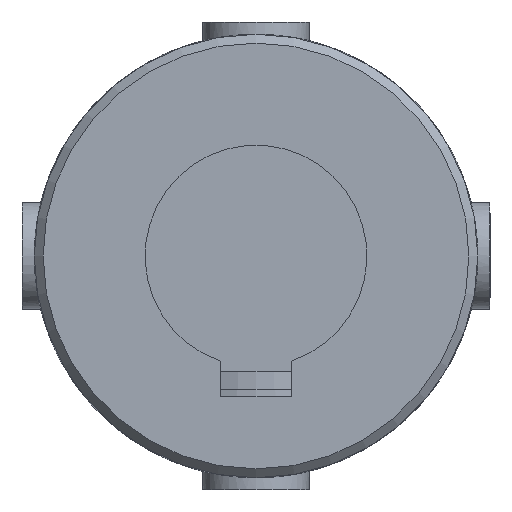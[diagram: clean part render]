
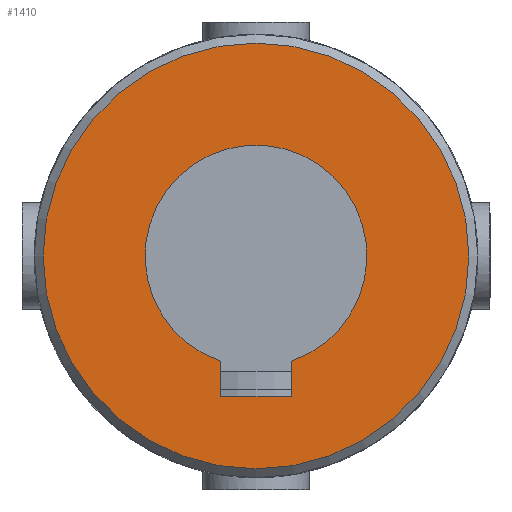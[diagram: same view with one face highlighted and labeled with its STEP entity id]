
A CAD part, front view. The second image highlights one B-rep face of the part: STEP entity #1410.
In plain terms, the highlighted planar face has unit normal (0, -1, 0).
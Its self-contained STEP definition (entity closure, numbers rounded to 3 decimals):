
#179=LINE('',#2753,#236);
#183=LINE('',#2780,#240);
#185=LINE('',#2788,#242);
#236=VECTOR('',#1827,3.957);
#240=VECTOR('',#1839,8.);
#242=VECTOR('',#1843,3.957);
#288=PLANE('',#1549);
#327=FACE_BOUND('',#509,.T.);
#395=FACE_OUTER_BOUND('',#508,.T.);
#508=EDGE_LOOP('',(#1232));
#509=EDGE_LOOP('',(#1233,#1234,#1235,#1236));
#572=CIRCLE('',#1536,12.5);
#578=CIRCLE('',#1547,24.);
#687=VERTEX_POINT('',#2750);
#688=VERTEX_POINT('',#2752);
#691=VERTEX_POINT('',#2762);
#693=VERTEX_POINT('',#2778);
#702=VERTEX_POINT('',#2865);
#863=EDGE_CURVE('',#688,#687,#179,.T.);
#867=EDGE_CURVE('',#691,#688,#572,.T.);
#871=EDGE_CURVE('',#687,#693,#183,.T.);
#874=EDGE_CURVE('',#693,#691,#185,.T.);
#884=EDGE_CURVE('',#702,#702,#578,.T.);
#1232=ORIENTED_EDGE('',*,*,#884,.F.);
#1233=ORIENTED_EDGE('',*,*,#863,.T.);
#1234=ORIENTED_EDGE('',*,*,#871,.T.);
#1235=ORIENTED_EDGE('',*,*,#874,.T.);
#1236=ORIENTED_EDGE('',*,*,#867,.T.);
#1410=ADVANCED_FACE('',(#395,#327),#288,.F.);
#1536=AXIS2_PLACEMENT_3D('',#2763,#1833,#1834);
#1547=AXIS2_PLACEMENT_3D('',#2866,#1860,#1861);
#1549=AXIS2_PLACEMENT_3D('',#3066,#1868,#1869);
#1827=DIRECTION('',(0.,0.,-1.));
#1833=DIRECTION('center_axis',(0.,1.,0.));
#1834=DIRECTION('ref_axis',(-0.32,0.,0.947));
#1839=DIRECTION('',(-1.,0.,0.));
#1843=DIRECTION('',(0.,0.,1.));
#1860=DIRECTION('center_axis',(0.,1.,0.));
#1861=DIRECTION('ref_axis',(1.,0.,0.));
#1868=DIRECTION('center_axis',(0.,1.,0.));
#1869=DIRECTION('ref_axis',(0.,0.,1.));
#2750=CARTESIAN_POINT('',(4.,-66.5,-15.8));
#2752=CARTESIAN_POINT('',(4.,-66.5,-11.843));
#2753=CARTESIAN_POINT('',(4.,-66.5,-5.921));
#2762=CARTESIAN_POINT('',(-4.,-66.5,-11.843));
#2763=CARTESIAN_POINT('Origin',(0.,-66.5,0.));
#2778=CARTESIAN_POINT('',(-4.,-66.5,-15.8));
#2780=CARTESIAN_POINT('',(2.,-66.5,-15.8));
#2788=CARTESIAN_POINT('',(-4.,-66.5,-7.9));
#2865=CARTESIAN_POINT('',(-24.,-66.5,0.));
#2866=CARTESIAN_POINT('Origin',(0.,-66.5,0.));
#3066=CARTESIAN_POINT('Origin',(0.,-66.5,0.));
